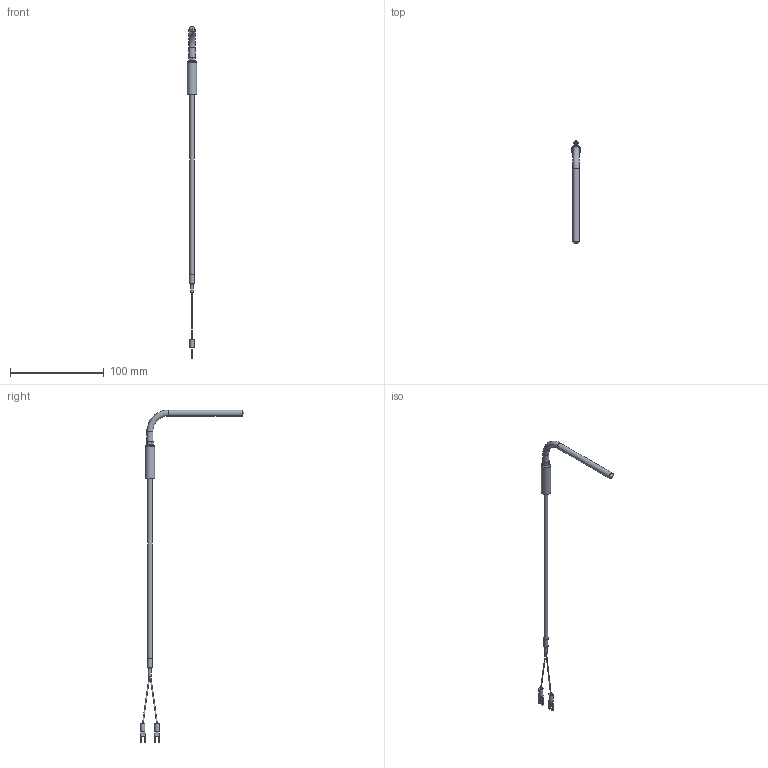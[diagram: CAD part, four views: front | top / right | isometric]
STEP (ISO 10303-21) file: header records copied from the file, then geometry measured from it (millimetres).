
FILE_DESCRIPTION (( 'STEP AP203' ), '1' );
FILE_NAME ('YIT111-6(0).STEP', '2025-03-19T02:21:47', ( '' ), ( '' ), 'SwSTEP 2.0', 'SolidWorks 2021', '' );
FILE_SCHEMA (( 'CONFIG_CONTROL_DESIGN' ));
Length unit declared in the file: millimetre
Products named in the file (1): YIT111-6(0)
Bounding box: 10 x 110.43 x 353.2 mm (x, y, z)
Volume: 10949.3 mm3; surface area: 7662.7 mm2
Topology: 1 solids, 1 shells, 70 faces, 168 edges, 109 vertices
Faces by surface type: plane 35, cylinder 22, bspline 8, cone 3, torus 2
Full cylindrical faces by diameter (mm): 3.16 x1, 4.5 x2, 4.8 x1, 5 x1, 6.4 x2, 10 x1
Entity records: 2185 total; most frequent: CARTESIAN_POINT 571, DIRECTION 312, ORIENTED_EDGE 296, EDGE_CURVE 148, AXIS2_PLACEMENT_3D 113, VERTEX_POINT 104, EDGE_LOOP 94, LINE 86
